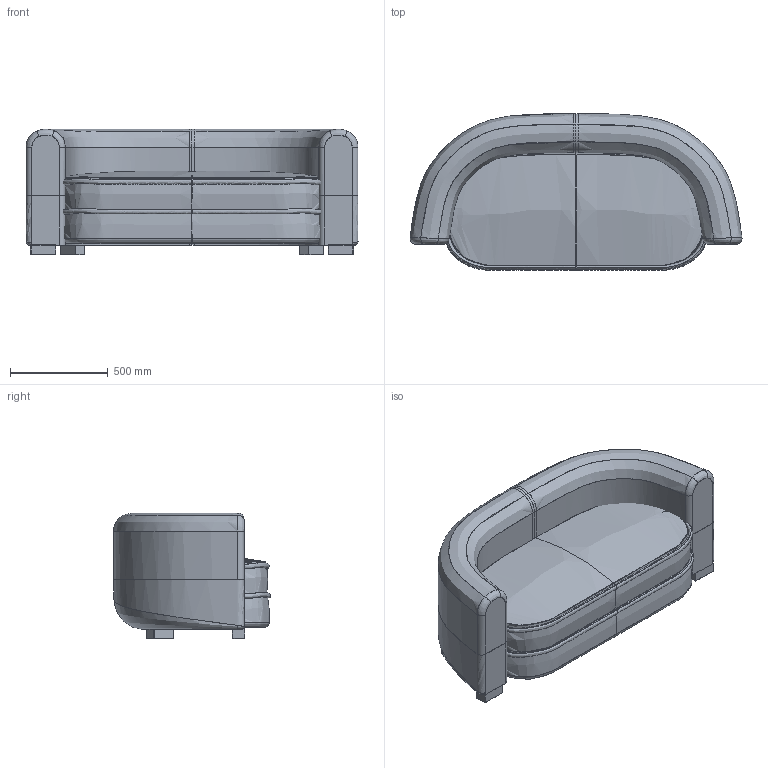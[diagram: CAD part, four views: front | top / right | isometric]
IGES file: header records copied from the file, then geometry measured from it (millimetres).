
Global section: file name: C:\Users\market02\Desktop\RYAN\Buenos aires 170 ET 200\exportation\FBUENCA170_CANAPE_SOFA_BUENOS AIRES\FBUENCA170_CANAPE_SOFA_BUENOS AIRES.igs; native system: Rhinoceros ( Dec 14 2021 ); preprocessor: Trout Lake IGES 012 Dec 14 2021; date: 220223.092114; units: centimetre
Bounding box: 1700.44 x 803.16 x 643.69 mm (x, y, z)
Surface area: 7481969.5 mm2 (no closed solid volume)
Topology: 0 solids, 0 shells, 157 faces, 3124 edges, 3116 vertices
Faces by surface type: bspline 157
